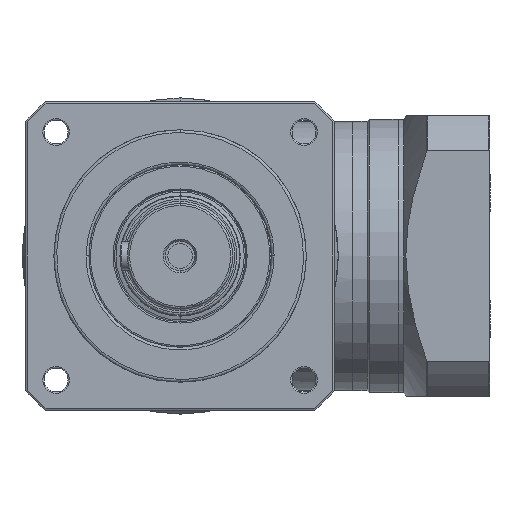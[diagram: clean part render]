
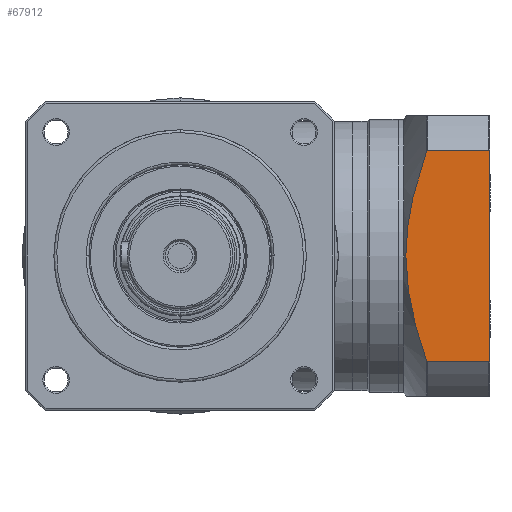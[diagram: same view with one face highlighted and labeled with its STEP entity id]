
A CAD part, left-side view. The second image highlights one B-rep face of the part: STEP entity #67912.
In plain terms, the highlighted planar face has unit normal (-1, 0, 0) as drawn and (0, -1, 0) by its records, which use the part's own axes.
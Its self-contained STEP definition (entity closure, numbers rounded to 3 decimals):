
#3234 = B_SPLINE_CURVE_WITH_KNOTS ( 'NONE', 3,
 ( #10407, #32612, #27225, #69124, #48064, #15543, #53447, #37558, #15765, #47828 ),
 .UNSPECIFIED., .F., .F.,
 ( 4, 2, 2, 2, 4 ),
 ( 0., 0., 0., 0.001, 0.001 ),
 .UNSPECIFIED. ) ;
#4350 = CARTESIAN_POINT ( 'NONE',  ( -59.543, -100., 12.765 ) ) ;
#5361 = EDGE_CURVE ( 'NONE', #18716, #11439, #47206, .T. ) ;
#6313 = LINE ( 'NONE', #46945, #15489 ) ;
#6973 = VERTEX_POINT ( 'NONE', #68328 ) ;
#7105 = EDGE_CURVE ( 'NONE', #52055, #37043, #61712, .T. ) ;
#8085 = VECTOR ( 'NONE', #9691, 1000. ) ;
#9691 = DIRECTION ( 'NONE',  ( -1., 0., 0. ) ) ;
#10407 = CARTESIAN_POINT ( 'NONE',  ( -45.233, -100., 74.351 ) ) ;
#10435 = CARTESIAN_POINT ( 'NONE',  ( -1., -100., -75. ) ) ;
#11073 = B_SPLINE_CURVE_WITH_KNOTS ( 'NONE', 3,
 ( #37039, #43098, #21062, #64598, #64375, #64144, #52919, #20827, #59233, #27159 ),
 .UNSPECIFIED., .F., .F.,
 ( 4, 2, 2, 2, 4 ),
 ( 0.076, 0.095, 0.114, 0.133, 0.153 ),
 .UNSPECIFIED. ) ;
#11439 = VERTEX_POINT ( 'NONE', #56666 ) ;
#15037 = CARTESIAN_POINT ( 'NONE',  ( -65.5, -100., 75. ) ) ;
#15489 = VECTOR ( 'NONE', #51399, 1000. ) ;
#15543 = CARTESIAN_POINT ( 'NONE',  ( -44.928, -100., 74.844 ) ) ;
#15765 = CARTESIAN_POINT ( 'NONE',  ( -44.632, -100., 75. ) ) ;
#16059 = ORIENTED_EDGE ( 'NONE', *, *, #61856, .F. ) ;
#17729 = VERTEX_POINT ( 'NONE', #23425 ) ;
#17756 = CARTESIAN_POINT ( 'NONE',  ( 0., -100., -73.321 ) ) ;
#17867 = CARTESIAN_POINT ( 'NONE',  ( -60., -100., 0. ) ) ;
#18188 = CARTESIAN_POINT ( 'NONE',  ( -0.663, -100., 74.438 ) ) ;
#18707 = ORIENTED_EDGE ( 'NONE', *, *, #59527, .T. ) ;
#18716 = VERTEX_POINT ( 'NONE', #68447 ) ;
#20658 = CARTESIAN_POINT ( 'NONE',  ( -54.533, -100., 44.031 ) ) ;
#20827 = CARTESIAN_POINT ( 'NONE',  ( -49.394, -100., -62.258 ) ) ;
#20886 = CARTESIAN_POINT ( 'NONE',  ( -58.204, -100., 25.418 ) ) ;
#21062 = CARTESIAN_POINT ( 'NONE',  ( -59.627, -100., -12.76 ) ) ;
#23425 = CARTESIAN_POINT ( 'NONE',  ( -45.233, -100., 74.351 ) ) ;
#25358 = CARTESIAN_POINT ( 'NONE',  ( -59.817, -100., 7.97 ) ) ;
#25589 = CARTESIAN_POINT ( 'NONE',  ( -49.375, -100., 62.316 ) ) ;
#25881 = CARTESIAN_POINT ( 'NONE',  ( -45.176, -100., -74.509 ) ) ;
#26095 = B_SPLINE_CURVE_WITH_KNOTS ( 'NONE', 3,
 ( #31012, #46914, #25589, #58379, #20658, #68425, #20886, #52748, #4350, #25358, #47380, #36875, #52983, #30788 ),
 .UNSPECIFIED., .F., .F.,
 ( 4, 2, 2, 2, 2, 2, 4 ),
 ( 0., 0.019, 0.038, 0.057, 0.066, 0.071, 0.076 ),
 .UNSPECIFIED. ) ;
#26120 = CARTESIAN_POINT ( 'NONE',  ( -45.097, -100., -74.66 ) ) ;
#26460 = EDGE_CURVE ( 'NONE', #52055, #32286, #28408, .T. ) ;
#27159 = CARTESIAN_POINT ( 'NONE',  ( -45.233, -100., -74.351 ) ) ;
#27225 = CARTESIAN_POINT ( 'NONE',  ( -45.171, -100., 74.506 ) ) ;
#28408 = B_SPLINE_CURVE_WITH_KNOTS ( 'NONE', 3,
 ( #63100, #46275, #68478, #41820, #31757, #26120, #25881, #42060 ),
 .UNSPECIFIED., .F., .F.,
 ( 4, 2, 2, 4 ),
 ( 0., 0., 0., 0.001 ),
 .UNSPECIFIED. ) ;
#29669 = EDGE_LOOP ( 'NONE', ( #41282, #16059, #64902, #18707, #59683, #68971, #31942, #38310, #65370 ) ) ;
#30788 = CARTESIAN_POINT ( 'NONE',  ( -60., -100., 0. ) ) ;
#31012 = CARTESIAN_POINT ( 'NONE',  ( -45.233, -100., 74.351 ) ) ;
#31757 = CARTESIAN_POINT ( 'NONE',  ( -44.928, -100., -74.844 ) ) ;
#31942 = ORIENTED_EDGE ( 'NONE', *, *, #53667, .F. ) ;
#31970 = DIRECTION ( 'NONE',  ( 0., 0., -1. ) ) ;
#32286 = VERTEX_POINT ( 'NONE', #52142 ) ;
#32463 = VECTOR ( 'NONE', #61922, 1000. ) ;
#32612 = CARTESIAN_POINT ( 'NONE',  ( -45.205, -100., 74.43 ) ) ;
#33280 = CARTESIAN_POINT ( 'NONE',  ( -0.663, -100., -74.439 ) ) ;
#36875 = CARTESIAN_POINT ( 'NONE',  ( -59.977, -100., 3.178 ) ) ;
#37039 = CARTESIAN_POINT ( 'NONE',  ( -60., -100., 0. ) ) ;
#37043 = VERTEX_POINT ( 'NONE', #10435 ) ;
#37558 = CARTESIAN_POINT ( 'NONE',  ( -44.715, -100., 74.977 ) ) ;
#38310 = ORIENTED_EDGE ( 'NONE', *, *, #66933, .F. ) ;
#38642 = CARTESIAN_POINT ( 'NONE',  ( -0.33, -100., 73.879 ) ) ;
#41138 = VERTEX_POINT ( 'NONE', #61769 ) ;
#41282 = ORIENTED_EDGE ( 'NONE', *, *, #41632, .T. ) ;
#41582 = AXIS2_PLACEMENT_3D ( 'NONE', #58629, #64016, #31970 ) ;
#41603 = LINE ( 'NONE', #15037, #8085 ) ;
#41632 = EDGE_CURVE ( 'NONE', #11439, #6973, #41603, .T. ) ;
#41820 = CARTESIAN_POINT ( 'NONE',  ( -44.862, -100., -74.899 ) ) ;
#42060 = CARTESIAN_POINT ( 'NONE',  ( -45.233, -100., -74.351 ) ) ;
#42917 = B_SPLINE_CURVE_WITH_KNOTS ( 'NONE', 3,
 ( #17756, #65316, #33280, #55232 ),
 .UNSPECIFIED., .F., .F.,
 ( 4, 4 ),
 ( 0., 1. ),
 .UNSPECIFIED. ) ;
#43098 = CARTESIAN_POINT ( 'NONE',  ( -60., -100., -6.413 ) ) ;
#46275 = CARTESIAN_POINT ( 'NONE',  ( -44.632, -100., -75. ) ) ;
#46286 = EDGE_CURVE ( 'NONE', #17729, #63289, #26095, .T. ) ;
#46914 = CARTESIAN_POINT ( 'NONE',  ( -47.381, -100., 68.35 ) ) ;
#46945 = CARTESIAN_POINT ( 'NONE',  ( 0., -100., 0. ) ) ;
#47206 = B_SPLINE_CURVE_WITH_KNOTS ( 'NONE', 3,
 ( #50283, #38642, #18188, #54985 ),
 .UNSPECIFIED., .F., .F.,
 ( 4, 4 ),
 ( 0., 1. ),
 .UNSPECIFIED. ) ;
#47380 = CARTESIAN_POINT ( 'NONE',  ( -59.886, -100., 6.368 ) ) ;
#47828 = CARTESIAN_POINT ( 'NONE',  ( -44.547, -100., 75. ) ) ;
#48064 = CARTESIAN_POINT ( 'NONE',  ( -45.041, -100., 74.721 ) ) ;
#48330 = PLANE ( 'NONE',  #41582 ) ;
#50283 = CARTESIAN_POINT ( 'NONE',  ( 0., -100., 73.321 ) ) ;
#51171 = CARTESIAN_POINT ( 'NONE',  ( -65.5, -100., -75. ) ) ;
#51399 = DIRECTION ( 'NONE',  ( 0., 0., -1. ) ) ;
#51697 = CARTESIAN_POINT ( 'NONE',  ( -44.547, -100., -75. ) ) ;
#52055 = VERTEX_POINT ( 'NONE', #51697 ) ;
#52142 = CARTESIAN_POINT ( 'NONE',  ( -45.233, -100., -74.351 ) ) ;
#52748 = CARTESIAN_POINT ( 'NONE',  ( -59.271, -100., 15.942 ) ) ;
#52919 = CARTESIAN_POINT ( 'NONE',  ( -52.977, -100., -50.064 ) ) ;
#52983 = CARTESIAN_POINT ( 'NONE',  ( -60., -100., 1.587 ) ) ;
#53447 = CARTESIAN_POINT ( 'NONE',  ( -44.862, -100., 74.899 ) ) ;
#53667 = EDGE_CURVE ( 'NONE', #41138, #37043, #42917, .T. ) ;
#54985 = CARTESIAN_POINT ( 'NONE',  ( -1., -100., 75. ) ) ;
#55232 = CARTESIAN_POINT ( 'NONE',  ( -1., -100., -75. ) ) ;
#56666 = CARTESIAN_POINT ( 'NONE',  ( -1., -100., 75. ) ) ;
#58379 = CARTESIAN_POINT ( 'NONE',  ( -52.951, -100., 50.156 ) ) ;
#58629 = CARTESIAN_POINT ( 'NONE',  ( -65.5, -100., 100. ) ) ;
#59233 = CARTESIAN_POINT ( 'NONE',  ( -47.393, -100., -68.319 ) ) ;
#59527 = EDGE_CURVE ( 'NONE', #63289, #32286, #11073, .T. ) ;
#59683 = ORIENTED_EDGE ( 'NONE', *, *, #26460, .F. ) ;
#60229 = FACE_OUTER_BOUND ( 'NONE', #29669, .T. ) ;
#61712 = LINE ( 'NONE', #51171, #32463 ) ;
#61769 = CARTESIAN_POINT ( 'NONE',  ( 0., -100., -73.321 ) ) ;
#61856 = EDGE_CURVE ( 'NONE', #17729, #6973, #3234, .T. ) ;
#61922 = DIRECTION ( 'NONE',  ( 1., 0., 0. ) ) ;
#63100 = CARTESIAN_POINT ( 'NONE',  ( -44.547, -100., -75. ) ) ;
#63289 = VERTEX_POINT ( 'NONE', #17867 ) ;
#64016 = DIRECTION ( 'NONE',  ( 0., -1., 0. ) ) ;
#64144 = CARTESIAN_POINT ( 'NONE',  ( -54.558, -100., -43.93 ) ) ;
#64375 = CARTESIAN_POINT ( 'NONE',  ( -57.177, -100., -31.566 ) ) ;
#64598 = CARTESIAN_POINT ( 'NONE',  ( -58.215, -100., -25.336 ) ) ;
#64902 = ORIENTED_EDGE ( 'NONE', *, *, #46286, .T. ) ;
#65316 = CARTESIAN_POINT ( 'NONE',  ( -0.33, -100., -73.879 ) ) ;
#65370 = ORIENTED_EDGE ( 'NONE', *, *, #5361, .T. ) ;
#66933 = EDGE_CURVE ( 'NONE', #18716, #41138, #6313, .T. ) ;
#67912 = ADVANCED_FACE ( 'NONE', ( #60229 ), #48330, .T. ) ;
#68328 = CARTESIAN_POINT ( 'NONE',  ( -44.547, -100., 75. ) ) ;
#68425 = CARTESIAN_POINT ( 'NONE',  ( -57.16, -100., 31.662 ) ) ;
#68447 = CARTESIAN_POINT ( 'NONE',  ( 0., -100., 73.321 ) ) ;
#68478 = CARTESIAN_POINT ( 'NONE',  ( -44.714, -100., -74.977 ) ) ;
#68971 = ORIENTED_EDGE ( 'NONE', *, *, #7105, .T. ) ;
#69124 = CARTESIAN_POINT ( 'NONE',  ( -45.089, -100., 74.651 ) ) ;
